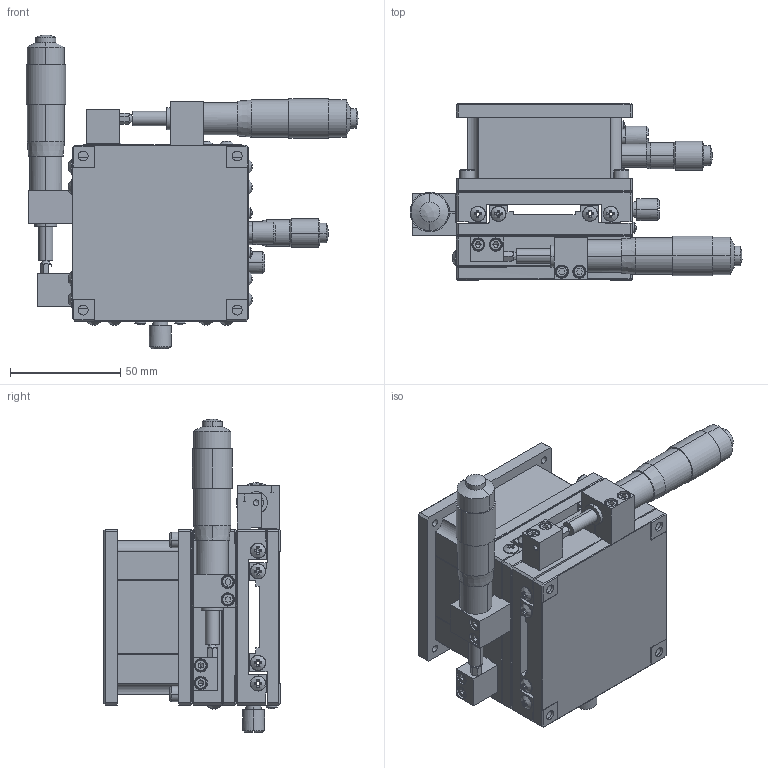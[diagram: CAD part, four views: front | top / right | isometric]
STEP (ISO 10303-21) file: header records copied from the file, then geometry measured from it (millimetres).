
FILE_DESCRIPTION (( 'STEP AP214' ), '1' );
FILE_NAME ('LD80.STEP', '2022-09-11T03:41:36', ( '' ), ( '' ), 'SwSTEP 2.0', 'SolidWorks 2017', '' );
FILE_SCHEMA (( 'AUTOMOTIVE_DESIGN' ));
Length unit declared in the file: millimetre
Products named in the file (1): LD80
Bounding box: 150.89 x 80 x 142.51 mm (x, y, z)
Surface area: 99060.6 mm2 (no closed solid volume)
Topology: 0 solids, 40 shells, 1015 faces, 3050 edges, 2010 vertices
Faces by surface type: plane 642, cylinder 175, cone 116, bspline 82
Entity records: 41003 total; most frequent: CARTESIAN_POINT 15982, ORIENTED_EDGE 5152, DIRECTION 4555, EDGE_CURVE 2973, VERTEX_POINT 1986, VECTOR 1617, LINE 1617, AXIS2_PLACEMENT_3D 1469
